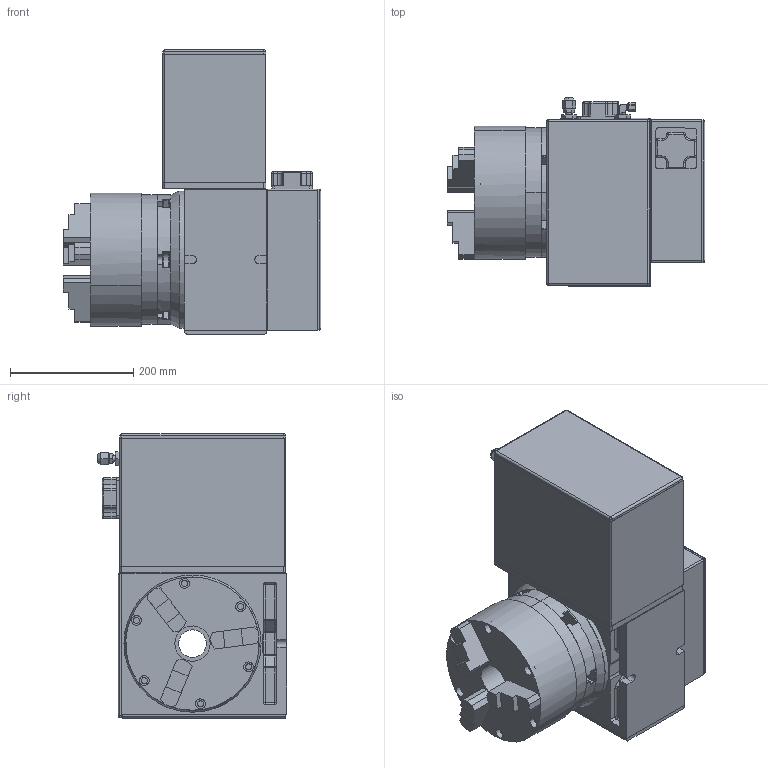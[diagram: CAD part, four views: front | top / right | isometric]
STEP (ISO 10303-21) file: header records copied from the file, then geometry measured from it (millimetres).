
FILE_DESCRIPTION (( 'STEP AP203' ), '1' );
FILE_NAME ('HRT210S.STEP', '2026-05-11T21:38:14', ( '' ), ( '' ), 'SwSTEP 2.0', 'SolidWorks 2025', '' );
FILE_SCHEMA (( 'CONFIG_CONTROL_DESIGN' ));
Length unit declared in the file: inch
Products named in the file (6): HRT210S; Side Body; 8in Chuck Adapter; Main Body; 8in Chuck; Platter
Assembly tree (5 placements, depth 2):
  HRT210S
    Main Body
    Platter
    Side Body
    8in Chuck
    8in Chuck Adapter
Bounding box: 417.88 x 306.41 x 460.38 mm (x, y, z)
Volume: 27746668 mm3; surface area: 1649616.6 mm2
Topology: 13 solids, 13 shells, 903 faces, 2284 edges, 1420 vertices
Faces by surface type: plane 407, cylinder 317, cone 97, torus 56, sphere 26
Entity records: 28083 total; most frequent: CARTESIAN_POINT 5729, DIRECTION 4653, ORIENTED_EDGE 4516, EDGE_CURVE 2258, AXIS2_PLACEMENT_3D 1770, VERTEX_POINT 1420, LINE 1113, VECTOR 1113
